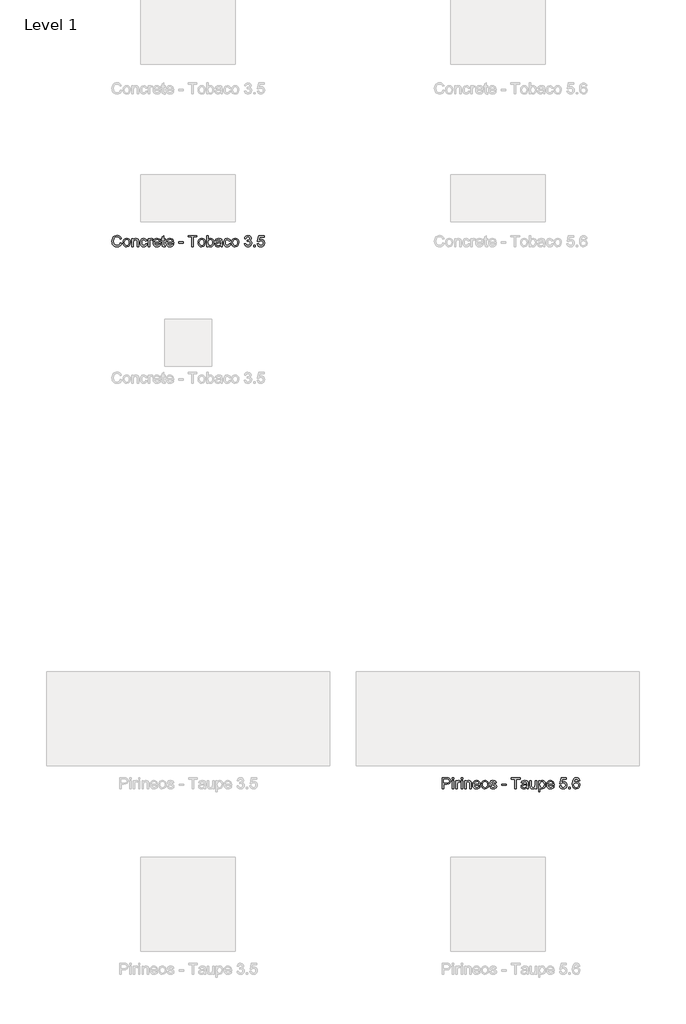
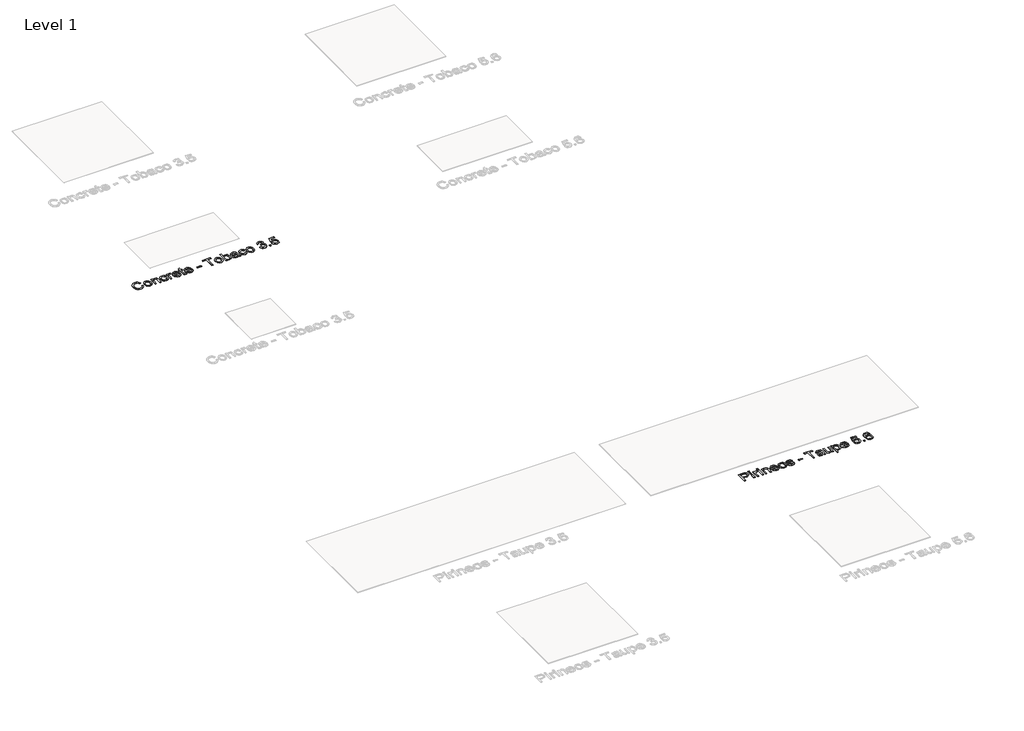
# One storey, part 49 of 80: 2 proxies.
"""IFC4 building model written with IfcOpenShell, lengths in millimetres."""

from ifc_helpers import new_model, si_unit, origin, origin_with_axes, place, context, project, spatial, polyline, outline, extrude, element, save

model = new_model("IFC4")

# Units and contexts
model_context = context("Model", 3, world=origin())
ifc_project = project(units=[si_unit("LENGTHUNIT", "METRE", prefix="MILLI")], contexts=[model_context])

# Site, building, storey
site = spatial("IfcSite", under=ifc_project)
building = spatial("IfcBuilding", under=site)
storey = spatial("IfcBuildingStorey", under=building, Name="Level 1", Elevation=0.0)

# Proxies
placement = place(None, origin())
element("IfcBuildingElementProxy", 1, Name="24\" Arial", ObjectType="24\" Arial", at=placement, inside=storey, context=model_context, shape_type="SweptSolid", body=[
    extrude(outline(polyline([(-7713.5376464, 1348.728562), (-7713.5376464, 1466.8824082), (-7669.7491848, 1466.8824082), (-7652.0953387, 1465.7574082), (-7637.7443771, 1460.2333697), (-7628.4414925, 1448.8102928), (-7624.9222617, 1432.6997159), (-7627.2984637, 1418.7742351), (-7634.4270694, 1407.1708697), (-7647.7575983, 1399.339139), (-7668.7395694, 1396.728562), (-7698.7684156, 1396.728562), (-7698.7684156, 1348.728562), (-7713.5376464, 1348.728562)]), holes=[polyline([(-7698.7684156, 1411.4977928), (-7667.8741848, 1411.4977928), (-7654.778031, 1412.853562), (-7646.1241848, 1416.9208697), (-7641.2996656, 1423.447312), (-7639.6914925, 1432.1804851), (-7643.4847617, 1444.4112544), (-7653.4511079, 1451.103562), (-7668.2203387, 1452.1131774), (-7698.7684156, 1452.1131774), (-7698.7684156, 1411.4977928)])]), origin_with_axes(), (0.0, 0.0, 1.0), 2.0),
    extrude(outline(polyline([(-7606.4607233, 1348.728562), (-7606.4607233, 1435.4977928), (-7591.6914925, 1435.4977928), (-7591.6914925, 1348.728562), (-7606.4607233, 1348.728562)])), origin_with_axes(), (0.0, 0.0, 1.0), 2.0),
    extrude(outline(polyline([(-7606.4607233, 1452.1131774), (-7606.4607233, 1466.8824082), (-7591.6914925, 1466.8824082), (-7591.6914925, 1452.1131774), (-7606.4607233, 1452.1131774)])), origin_with_axes(), (0.0, 0.0, 1.0), 2.0),
    extrude(outline(polyline([(-7569.5376464, 1348.728562), (-7569.5376464, 1435.4977928), (-7556.6145694, 1435.4977928), (-7556.6145694, 1422.6612544), (-7547.4414925, 1434.4881774), (-7538.2107233, 1437.3439467), (-7523.3838002, 1432.7862544), (-7528.3164925, 1419.5458697), (-7538.7011079, 1422.5747159), (-7547.0520694, 1419.6612544), (-7552.3741848, 1411.5843313), (-7554.7684156, 1394.3343313), (-7554.7684156, 1348.728562), (-7569.5376464, 1348.728562)])), origin_with_axes(), (0.0, 0.0, 1.0), 2.0),
    extrude(outline(polyline([(-7514.153031, 1348.728562), (-7514.153031, 1435.4977928), (-7499.3838002, 1435.4977928), (-7499.3838002, 1348.728562), (-7514.153031, 1348.728562)])), origin_with_axes(), (0.0, 0.0, 1.0), 2.0),
    extrude(outline(polyline([(-7514.153031, 1452.1131774), (-7514.153031, 1466.8824082), (-7499.3838002, 1466.8824082), (-7499.3838002, 1452.1131774), (-7514.153031, 1452.1131774)])), origin_with_axes(), (0.0, 0.0, 1.0), 2.0),
    extrude(outline(polyline([(-7477.2299541, 1348.728562), (-7477.2299541, 1435.4977928), (-7462.4607233, 1435.4977928), (-7462.4607233, 1423.3824082), (-7451.1674541, 1433.853562), (-7435.7491848, 1437.3439467), (-7421.8020694, 1434.5314467), (-7412.2828387, 1427.1468313), (-7407.8549541, 1416.2862544), (-7407.0761079, 1402.0074082), (-7407.0761079, 1348.728562), (-7421.8453387, 1348.728562), (-7421.8453387, 1400.0170236), (-7423.5472617, 1413.0843313), (-7429.5616848, 1419.9929851), (-7439.7011079, 1422.5747159), (-7455.7251464, 1416.776639), (-7460.7768291, 1408.3751967), (-7462.4607233, 1394.7670236), (-7462.4607233, 1348.728562), (-7477.2299541, 1348.728562)])), origin_with_axes(), (0.0, 0.0, 1.0), 2.0),
    extrude(outline(polyline([(-7326.0184156, 1374.5747159), (-7311.5376464, 1372.728562), (-7316.7551944, 1361.8175044), (-7325.0809156, 1353.6612544), (-7336.3273098, 1348.5771197), (-7350.3068771, 1346.8824082), (-7367.6362041, 1349.806687), (-7380.9703387, 1358.5795236), (-7389.4727425, 1372.6312063), (-7392.3068771, 1391.3920236), (-7389.4438964, 1410.7838505), (-7380.8549541, 1425.2862544), (-7367.7011079, 1434.3295236), (-7351.1434156, 1437.3439467), (-7335.1013483, 1434.3367351), (-7322.2828387, 1425.3151005), (-7313.8777906, 1410.8415428), (-7311.0761079, 1391.478562), (-7311.1626464, 1387.4977928), (-7377.5376464, 1387.4977928), (-7374.981156, 1376.4425044), (-7369.0424541, 1368.3151005), (-7360.4715406, 1363.3175044), (-7350.0184156, 1361.651639), (-7335.5376464, 1364.7381774), (-7326.0184156, 1374.5747159)]), holes=[polyline([(-7377.5376464, 1402.2670236), (-7325.8453387, 1402.2670236), (-7331.7588002, 1415.651639), (-7340.3693771, 1420.8439467), (-7351.2011079, 1422.5747159), (-7369.3886079, 1417.0506774), (-7375.1109637, 1410.5927447), (-7377.5376464, 1402.2670236)])]), origin_with_axes(), (0.0, 0.0, 1.0), 2.0),
    extrude(outline(polyline([(-7299.9991848, 1392.1131774), (-7296.8044733, 1413.0338505), (-7287.2203387, 1427.7381774), (-7275.3789925, 1434.9425044), (-7261.2011079, 1437.3439467), (-7245.6854829, 1434.4196678), (-7233.2924541, 1425.6468313), (-7225.168656, 1411.7177447), (-7222.4607233, 1393.3247159), (-7227.2491848, 1367.0458697), (-7241.1963002, 1352.1756774), (-7261.2011079, 1346.8824082), (-7276.9042329, 1349.7958697), (-7289.2828387, 1358.5362544), (-7297.3200983, 1372.7574082), (-7299.9991848, 1392.1131774)]), holes=[polyline([(-7285.2299541, 1392.1420236), (-7283.5208194, 1378.775437), (-7278.3934156, 1369.2526005), (-7270.6770694, 1363.5518794), (-7261.2011079, 1361.651639), (-7251.7684156, 1363.5626967), (-7244.0664925, 1369.2958697), (-7238.9390887, 1378.9449082), (-7237.2299541, 1392.603562), (-7238.949906, 1405.5807255), (-7244.1097617, 1414.9737544), (-7251.8225021, 1420.6744755), (-7261.2011079, 1422.5747159), (-7270.6770694, 1420.681687), (-7278.3934156, 1415.0026005), (-7283.5208194, 1405.5013986), (-7285.2299541, 1392.1420236)])]), origin_with_axes(), (0.0, 0.0, 1.0), 2.0),
    extrude(outline(polyline([(-7211.3838002, 1374.5747159), (-7196.6145694, 1376.4208697), (-7189.778031, 1365.4593313), (-7174.1145694, 1361.651639), (-7159.0568771, 1365.1420236), (-7154.153031, 1373.3343313), (-7159.0857233, 1379.9689467), (-7174.2876464, 1384.1804851), (-7196.528031, 1391.4064467), (-7206.2347617, 1399.8439467), (-7209.5376464, 1411.7574082), (-7206.8838002, 1422.7622159), (-7199.6434156, 1431.1708697), (-7190.2539925, 1435.541062), (-7177.5472617, 1437.3439467), (-7159.5761079, 1434.4449082), (-7148.153031, 1426.5987544), (-7143.0761079, 1413.3439467), (-7157.8453387, 1411.4977928), (-7163.3982233, 1419.6468313), (-7176.3934156, 1422.5747159), (-7190.528031, 1419.776639), (-7194.7684156, 1413.2574082), (-7193.0088002, 1408.9593313), (-7187.4991848, 1405.6997159), (-7174.778031, 1402.5554851), (-7153.1001464, 1395.603562), (-7143.0328387, 1387.728562), (-7139.3838002, 1374.8920236), (-7143.6674541, 1360.7574082), (-7156.028031, 1350.5026005), (-7174.3164925, 1346.8824082), (-7189.2083194, 1348.6276005), (-7200.0761079, 1353.8631774), (-7207.3309156, 1362.5314467), (-7211.3838002, 1374.5747159)])), origin_with_axes(), (0.0, 0.0, 1.0), 2.0),
    extrude(outline(polyline([(-7083.9991848, 1383.8054851), (-7083.9991848, 1398.5747159), (-7037.8453387, 1398.5747159), (-7037.8453387, 1383.8054851), (-7083.9991848, 1383.8054851)])), origin_with_axes(), (0.0, 0.0, 1.0), 2.0),
    extrude(outline(polyline([(-6943.6914925, 1348.728562), (-6943.6914925, 1452.1131774), (-6982.4607233, 1452.1131774), (-6982.4607233, 1466.8824082), (-6890.153031, 1466.8824082), (-6890.153031, 1452.1131774), (-6928.9222617, 1452.1131774), (-6928.9222617, 1348.728562), (-6943.6914925, 1348.728562)])), origin_with_axes(), (0.0, 0.0, 1.0), 2.0),
    extrude(outline(polyline([(-6819.9991848, 1359.8054851), (-6834.3213002, 1349.7958697), (-6850.1434156, 1346.8824082), (-6862.4859637, 1348.634812), (-6871.590531, 1353.8920236), (-6877.2047137, 1361.8751967), (-6879.0761079, 1371.8054851), (-6876.2491848, 1383.4881774), (-6868.8213002, 1391.9689467), (-6858.4799541, 1396.8151005), (-6845.7011079, 1399.0362544), (-6820.0857233, 1404.1131774), (-6819.9991848, 1407.401639), (-6824.0664925, 1418.3054851), (-6840.3934156, 1422.5747159), (-6855.3357233, 1419.7333697), (-6862.4607233, 1409.651639), (-6877.2299541, 1411.4977928), (-6870.840531, 1425.9208697), (-6857.9751464, 1434.3727928), (-6838.4895694, 1437.3439467), (-6820.590531, 1434.7189467), (-6810.4799541, 1428.1276005), (-6805.9511079, 1418.103562), (-6805.2299541, 1405.1804851), (-6805.2299541, 1386.8054851), (-6804.4799541, 1361.1468313), (-6801.5376464, 1348.728562), (-6816.3068771, 1348.728562), (-6819.9991848, 1359.8054851)]), holes=[polyline([(-6819.9991848, 1389.3439467), (-6843.8261079, 1384.8151005), (-6856.5328387, 1382.4208697), (-6862.2876464, 1378.526639), (-6864.3068771, 1372.8439467), (-6859.9078387, 1364.853562), (-6846.9991848, 1361.651639), (-6832.0568771, 1365.1852928), (-6822.4222617, 1373.7381774), (-6820.0857233, 1385.1612544), (-6819.9991848, 1389.3439467)])]), origin_with_axes(), (0.0, 0.0, 1.0), 2.0),
    extrude(outline(polyline([(-6729.5376464, 1348.728562), (-6729.5376464, 1363.6420236), (-6741.1049541, 1351.072312), (-6756.1914925, 1346.8824082), (-6770.0809156, 1349.8247159), (-6779.6578387, 1357.2093313), (-6784.0568771, 1368.0843313), (-6784.9222617, 1381.8151005), (-6784.9222617, 1435.4977928), (-6770.153031, 1435.4977928), (-6770.153031, 1388.7670236), (-6769.2588002, 1373.7093313), (-6763.4174541, 1364.8679851), (-6752.4126464, 1361.651639), (-6740.0809156, 1364.9401005), (-6731.9318771, 1373.8968313), (-6729.5376464, 1390.353562), (-6729.5376464, 1435.4977928), (-6714.7684156, 1435.4977928), (-6714.7684156, 1348.728562), (-6729.5376464, 1348.728562)])), origin_with_axes(), (0.0, 0.0, 1.0), 2.0),
    extrude(outline(polyline([(-6694.4607233, 1315.4977928), (-6694.4607233, 1435.4977928), (-6679.6914925, 1435.4977928), (-6679.6914925, 1421.0170236), (-6669.4799541, 1433.2622159), (-6655.6914925, 1437.3439467), (-6636.9703387, 1431.6324082), (-6624.7395694, 1415.5362544), (-6620.6145694, 1392.776639), (-6625.2732233, 1368.8487544), (-6630.9847617, 1359.4593313), (-6638.8020694, 1352.5506774), (-6657.4799541, 1346.8824082), (-6670.3309156, 1350.6756774), (-6679.6914925, 1360.2670236), (-6679.6914925, 1315.4977928), (-6694.4607233, 1315.4977928)]), holes=[polyline([(-6679.6914925, 1391.4208697), (-6678.0941367, 1378.1804851), (-6673.3020694, 1368.9208697), (-6666.231156, 1363.4689467), (-6657.7972617, 1361.651639), (-6649.2263483, 1363.5338505), (-6641.9751464, 1369.1804851), (-6637.0316367, 1378.7790428), (-6635.3838002, 1392.5170236), (-6636.9919733, 1405.6852928), (-6641.8164925, 1415.0747159), (-6648.8765887, 1420.6997159), (-6657.1914925, 1422.5747159), (-6665.5388483, 1420.5807255), (-6672.8693771, 1414.5987544), (-6677.9859637, 1404.8163024), (-6679.6914925, 1391.4208697)])]), origin_with_axes(), (0.0, 0.0, 1.0), 2.0),
    extrude(outline(polyline([(-6543.2491848, 1374.5747159), (-6528.7684156, 1372.728562), (-6533.9859637, 1361.8175044), (-6542.3116848, 1353.6612544), (-6553.5580791, 1348.5771197), (-6567.5376464, 1346.8824082), (-6584.8669733, 1349.806687), (-6598.2011079, 1358.5795236), (-6606.7035117, 1372.6312063), (-6609.5376464, 1391.3920236), (-6606.6746656, 1410.7838505), (-6598.0857233, 1425.2862544), (-6584.9318771, 1434.3295236), (-6568.3741848, 1437.3439467), (-6552.3321175, 1434.3367351), (-6539.5136079, 1425.3151005), (-6531.1085598, 1410.8415428), (-6528.3068771, 1391.478562), (-6528.3934156, 1387.4977928), (-6594.7684156, 1387.4977928), (-6592.2119252, 1376.4425044), (-6586.2732233, 1368.3151005), (-6577.7023098, 1363.3175044), (-6567.2491848, 1361.651639), (-6552.7684156, 1364.7381774), (-6543.2491848, 1374.5747159)]), holes=[polyline([(-6594.7684156, 1402.2670236), (-6543.0761079, 1402.2670236), (-6548.9895694, 1415.651639), (-6557.6001464, 1420.8439467), (-6568.4318771, 1422.5747159), (-6586.6193771, 1417.0506774), (-6592.3417329, 1410.5927447), (-6594.7684156, 1402.2670236)])]), origin_with_axes(), (0.0, 0.0, 1.0), 2.0),
    extrude(outline(polyline([(-6471.0761079, 1380.1131774), (-6456.3068771, 1381.9593313), (-6448.8645694, 1366.7429851), (-6433.4318771, 1361.651639), (-6422.8453387, 1363.4220717), (-6414.9126464, 1368.7333697), (-6409.9583194, 1376.9725524), (-6408.3068771, 1387.526639), (-6409.8537521, 1397.464139), (-6414.4943771, 1405.0651005), (-6422.2648098, 1409.8896197), (-6433.2011079, 1411.4977928), (-6446.1674541, 1408.9304851), (-6454.4607233, 1402.2670236), (-6469.2299541, 1404.1131774), (-6456.3068771, 1465.0362544), (-6399.0761079, 1465.0362544), (-6399.0761079, 1450.2670236), (-6444.3645694, 1450.2670236), (-6450.6818771, 1417.728562), (-6440.1313964, 1424.1324082), (-6429.0761079, 1426.2670236), (-6415.2768291, 1423.620389), (-6403.8213002, 1415.6804851), (-6396.1085598, 1403.5795236), (-6393.5376464, 1388.4497159), (-6395.8525502, 1373.6804851), (-6402.7972617, 1361.0458697), (-6416.0953387, 1350.4232736), (-6433.4895694, 1346.8824082), (-6447.9955791, 1349.1576486), (-6459.5520694, 1355.9833697), (-6467.4739444, 1366.5663024), (-6471.0761079, 1380.1131774)])), origin_with_axes(), (0.0, 0.0, 1.0), 2.0),
    extrude(outline(polyline([(-6373.2299541, 1348.728562), (-6373.2299541, 1363.4977928), (-6358.4607233, 1363.4977928), (-6358.4607233, 1348.728562), (-6373.2299541, 1348.728562)])), origin_with_axes(), (0.0, 0.0, 1.0), 2.0),
    extrude(outline(polyline([(-6258.7684156, 1435.4977928), (-6273.5376464, 1433.651639), (-6279.1338002, 1445.9689467), (-6285.8333194, 1450.5771197), (-6293.9318771, 1452.1131774), (-6307.2588002, 1448.5362544), (-6317.340531, 1435.1083697), (-6321.5376464, 1408.7862544), (-6308.5136079, 1420.5699082), (-6292.3741848, 1424.4208697), (-6278.7299541, 1421.7886582), (-6267.278031, 1413.8920236), (-6259.5112041, 1401.8271197), (-6256.9222617, 1386.6901005), (-6261.7972617, 1366.3102928), (-6275.2107233, 1351.8872159), (-6294.5664925, 1346.8824082), (-6311.3225021, 1350.1997159), (-6324.6674541, 1360.151639), (-6333.3970214, 1377.7189467), (-6336.3068771, 1403.8824082), (-6333.0761079, 1433.2982736), (-6323.3838002, 1453.4112544), (-6310.1506271, 1463.5146197), (-6293.0088002, 1466.8824082), (-6280.0496656, 1464.7982736), (-6269.6722617, 1458.5458697), (-6262.403031, 1448.6155813), (-6258.7684156, 1435.4977928)]), holes=[polyline([(-6321.5376464, 1386.9208697), (-6318.1193771, 1374.1276005), (-6309.0328387, 1364.839139), (-6295.7203387, 1361.651639), (-6285.9739444, 1363.3030813), (-6278.3116848, 1368.2574082), (-6273.3465406, 1376.0458697), (-6271.6914925, 1386.1997159), (-6273.324906, 1395.9461101), (-6278.2251464, 1403.3776005), (-6286.0172137, 1408.0831294), (-6296.3261079, 1409.651639), (-6306.0580791, 1408.0831294), (-6314.1963002, 1403.3776005), (-6319.7023098, 1396.1263986), (-6321.5376464, 1386.9208697)])]), origin_with_axes(), (0.0, 0.0, 1.0), 2.0),
])
element("IfcBuildingElementProxy", 2, Name="24\" Arial", ObjectType="24\" Arial", at=placement, inside=storey, context=model_context, shape_type="SweptSolid", body=[
    extrude(outline(polyline([(-11124.6145694, 7132.3794502), (-11109.8453387, 7128.5717579), (-11116.6602425, 7111.3614213), (-11127.3549541, 7098.788104), (-11141.403031, 7091.0969982), (-11158.278031, 7088.5332963), (-11175.4090406, 7090.4732002), (-11189.0136079, 7096.2929117), (-11199.4414925, 7105.7905079), (-11207.0424541, 7118.7640655), (-11211.6830791, 7134.0164694), (-11213.2299541, 7150.350604), (-11211.481156, 7167.5789694), (-11206.2347617, 7182.4563732), (-11197.7648098, 7194.5104598), (-11186.3453387, 7203.2688732), (-11172.8020694, 7208.6018059), (-11157.9607233, 7210.3794502), (-11141.7672137, 7208.0789694), (-11128.3789925, 7201.1775271), (-11118.2143291, 7190.100604), (-11111.6914925, 7175.2736809), (-11126.4607233, 7171.7544502), (-11131.5809156, 7182.5248829), (-11138.5761079, 7189.913104), (-11147.5328387, 7194.1859405), (-11158.5376464, 7195.6102194), (-11171.2227425, 7194.0308925), (-11181.6434156, 7189.2929117), (-11189.5508675, 7181.8938732), (-11194.6963002, 7172.3313732), (-11198.4607233, 7150.3794502), (-11194.0039925, 7124.9371425), (-11188.3068771, 7115.4359405), (-11180.1289925, 7108.6823348), (-11159.7491848, 7103.3025271), (-11147.4210598, 7105.1342579), (-11137.1482233, 7110.6294502), (-11129.3922137, 7119.7304117), (-11124.6145694, 7132.3794502)])), origin_with_axes(), (0.0, 0.0, 1.0), 2.0),
    extrude(outline(polyline([(-11095.0761079, 7133.7640655), (-11091.8813964, 7154.6847386), (-11082.2972617, 7169.3890655), (-11070.4559156, 7176.5933925), (-11056.278031, 7178.9948348), (-11040.762406, 7176.0705559), (-11028.3693771, 7167.2977194), (-11020.2455791, 7153.3686329), (-11017.5376464, 7134.975604), (-11022.3261079, 7108.6967579), (-11036.2732233, 7093.8265655), (-11056.278031, 7088.5332963), (-11071.981156, 7091.4467579), (-11084.3597617, 7100.1871425), (-11092.3970214, 7114.4082963), (-11095.0761079, 7133.7640655)]), holes=[polyline([(-11080.3068771, 7133.7929117), (-11078.5977425, 7120.4263252), (-11073.4703387, 7110.9034886), (-11065.7539925, 7105.2027675), (-11056.278031, 7103.3025271), (-11046.8453387, 7105.2135848), (-11039.1434156, 7110.9467579), (-11034.0160117, 7120.5957963), (-11032.3068771, 7134.2544502), (-11034.0268291, 7147.2316136), (-11039.1866848, 7156.6246425), (-11046.8994252, 7162.3253636), (-11056.278031, 7164.225604), (-11065.7539925, 7162.3325752), (-11073.4703387, 7156.6534886), (-11078.5977425, 7147.1522867), (-11080.3068771, 7133.7929117)])]), origin_with_axes(), (0.0, 0.0, 1.0), 2.0),
    extrude(outline(polyline([(-11000.9222617, 7090.3794502), (-11000.9222617, 7177.1486809), (-10986.153031, 7177.1486809), (-10986.153031, 7165.0332963), (-10974.8597617, 7175.5044502), (-10959.4414925, 7178.9948348), (-10945.4943771, 7176.1823348), (-10935.9751464, 7168.7977194), (-10931.5472617, 7157.9371425), (-10930.7684156, 7143.6582963), (-10930.7684156, 7090.3794502), (-10945.5376464, 7090.3794502), (-10945.5376464, 7141.6679117), (-10947.2395694, 7154.7352194), (-10953.2539925, 7161.6438732), (-10963.3934156, 7164.225604), (-10979.4174541, 7158.4275271), (-10984.4691367, 7150.0260848), (-10986.153031, 7136.4179117), (-10986.153031, 7090.3794502), (-11000.9222617, 7090.3794502)])), origin_with_axes(), (0.0, 0.0, 1.0), 2.0),
    extrude(outline(polyline([(-10855.0761079, 7121.7640655), (-10840.3068771, 7119.9179117), (-10844.4246656, 7106.7820944), (-10852.1626464, 7096.8554117), (-10862.7924541, 7090.6138252), (-10875.5857233, 7088.5332963), (-10891.2960598, 7091.4359405), (-10903.5809156, 7100.1438732), (-10911.5100021, 7114.2748829), (-10914.153031, 7133.4467579), (-10909.6386079, 7157.9804117), (-10903.9414925, 7167.178729), (-10895.8789925, 7173.7448348), (-10875.7876464, 7178.9948348), (-10863.3080791, 7177.1919502), (-10853.3309156, 7171.7832963), (-10846.1734637, 7163.0573348), (-10842.153031, 7151.3025271), (-10856.9222617, 7149.4563732), (-10863.7732233, 7160.5188732), (-10875.6722617, 7164.225604), (-10885.2167329, 7162.4010848), (-10892.7924541, 7156.9275271), (-10897.7359637, 7147.5092579), (-10899.3838002, 7133.850604), (-10897.7720214, 7120.0080559), (-10892.9366848, 7110.5573348), (-10885.4979829, 7105.116229), (-10876.0761079, 7103.3025271), (-10862.1578387, 7107.8313732), (-10855.0761079, 7121.7640655)])), origin_with_axes(), (0.0, 0.0, 1.0), 2.0),
    extrude(outline(polyline([(-10827.3838002, 7090.3794502), (-10827.3838002, 7177.1486809), (-10814.4607233, 7177.1486809), (-10814.4607233, 7164.3121425), (-10805.2876464, 7176.1390655), (-10796.0568771, 7178.9948348), (-10781.2299541, 7174.4371425), (-10786.1626464, 7161.1967579), (-10796.5472617, 7164.225604), (-10804.8982233, 7161.3121425), (-10810.2203387, 7153.2352194), (-10812.6145694, 7135.9852194), (-10812.6145694, 7090.3794502), (-10827.3838002, 7090.3794502)])), origin_with_axes(), (0.0, 0.0, 1.0), 2.0),
    extrude(outline(polyline([(-10711.2491848, 7116.225604), (-10696.7684156, 7114.3794502), (-10701.9859637, 7103.4683925), (-10710.3116848, 7095.3121425), (-10721.5580791, 7090.2280079), (-10735.5376464, 7088.5332963), (-10752.8669733, 7091.4575752), (-10766.2011079, 7100.2304117), (-10774.7035117, 7114.2820944), (-10777.5376464, 7133.0429117), (-10774.6746656, 7152.4347386), (-10766.0857233, 7166.9371425), (-10752.9318771, 7175.9804117), (-10736.3741848, 7178.9948348), (-10720.3321175, 7175.9876232), (-10707.5136079, 7166.9659886), (-10699.1085598, 7152.4924309), (-10696.3068771, 7133.1294502), (-10696.3934156, 7129.1486809), (-10762.7684156, 7129.1486809), (-10760.2119252, 7118.0933925), (-10754.2732233, 7109.9659886), (-10745.7023098, 7104.9683925), (-10735.2491848, 7103.3025271), (-10720.7684156, 7106.3890655), (-10711.2491848, 7116.225604)]), holes=[polyline([(-10762.7684156, 7143.9179117), (-10711.0761079, 7143.9179117), (-10716.9895694, 7157.3025271), (-10725.6001464, 7162.4948348), (-10736.4318771, 7164.225604), (-10754.6193771, 7158.7015655), (-10760.3417329, 7152.2436329), (-10762.7684156, 7143.9179117)])]), origin_with_axes(), (0.0, 0.0, 1.0), 2.0),
    extrude(outline(polyline([(-10650.153031, 7102.6967579), (-10648.3068771, 7089.9467579), (-10659.3549541, 7088.5332963), (-10671.7299541, 7090.9852194), (-10677.903031, 7097.4179117), (-10679.6914925, 7114.1775271), (-10679.6914925, 7162.3794502), (-10690.7684156, 7162.3794502), (-10690.7684156, 7177.1486809), (-10679.6914925, 7177.1486809), (-10679.6914925, 7198.2352194), (-10664.9222617, 7206.9179117), (-10664.9222617, 7177.1486809), (-10650.153031, 7177.1486809), (-10650.153031, 7162.3794502), (-10664.9222617, 7162.3794502), (-10664.9222617, 7114.6102194), (-10664.1434156, 7106.9948348), (-10661.6193771, 7104.2977194), (-10656.5857233, 7103.3025271), (-10650.153031, 7102.6967579)])), origin_with_axes(), (0.0, 0.0, 1.0), 2.0),
    extrude(outline(polyline([(-10574.6338002, 7116.225604), (-10560.153031, 7114.3794502), (-10565.3705791, 7103.4683925), (-10573.6963002, 7095.3121425), (-10584.9426944, 7090.2280079), (-10598.9222617, 7088.5332963), (-10616.2515887, 7091.4575752), (-10629.5857233, 7100.2304117), (-10638.0881271, 7114.2820944), (-10640.9222617, 7133.0429117), (-10638.059281, 7152.4347386), (-10629.4703387, 7166.9371425), (-10616.3164925, 7175.9804117), (-10599.7588002, 7178.9948348), (-10583.7167329, 7175.9876232), (-10570.8982233, 7166.9659886), (-10562.4931752, 7152.4924309), (-10559.6914925, 7133.1294502), (-10559.778031, 7129.1486809), (-10626.153031, 7129.1486809), (-10623.5965406, 7118.0933925), (-10617.6578387, 7109.9659886), (-10609.0869252, 7104.9683925), (-10598.6338002, 7103.3025271), (-10584.153031, 7106.3890655), (-10574.6338002, 7116.225604)]), holes=[polyline([(-10626.153031, 7143.9179117), (-10574.4607233, 7143.9179117), (-10580.3741848, 7157.3025271), (-10588.9847617, 7162.4948348), (-10599.8164925, 7164.225604), (-10618.0039925, 7158.7015655), (-10623.7263483, 7152.2436329), (-10626.153031, 7143.9179117)])]), origin_with_axes(), (0.0, 0.0, 1.0), 2.0),
    extrude(outline(polyline([(-10506.153031, 7125.4563732), (-10506.153031, 7140.225604), (-10459.9991848, 7140.225604), (-10459.9991848, 7125.4563732), (-10506.153031, 7125.4563732)])), origin_with_axes(), (0.0, 0.0, 1.0), 2.0),
    extrude(outline(polyline([(-10365.8453387, 7090.3794502), (-10365.8453387, 7193.7640655), (-10404.6145694, 7193.7640655), (-10404.6145694, 7208.5332963), (-10312.3068771, 7208.5332963), (-10312.3068771, 7193.7640655), (-10351.0761079, 7193.7640655), (-10351.0761079, 7090.3794502), (-10365.8453387, 7090.3794502)])), origin_with_axes(), (0.0, 0.0, 1.0), 2.0),
    extrude(outline(polyline([(-10301.2299541, 7133.7640655), (-10298.0352425, 7154.6847386), (-10288.4511079, 7169.3890655), (-10276.6097617, 7176.5933925), (-10262.4318771, 7178.9948348), (-10246.9162521, 7176.0705559), (-10234.5232233, 7167.2977194), (-10226.3994252, 7153.3686329), (-10223.6914925, 7134.975604), (-10228.4799541, 7108.6967579), (-10242.4270694, 7093.8265655), (-10262.4318771, 7088.5332963), (-10278.1350021, 7091.4467579), (-10290.5136079, 7100.1871425), (-10298.5508675, 7114.4082963), (-10301.2299541, 7133.7640655)]), holes=[polyline([(-10286.4607233, 7133.7929117), (-10284.7515887, 7120.4263252), (-10279.6241848, 7110.9034886), (-10271.9078387, 7105.2027675), (-10262.4318771, 7103.3025271), (-10252.9991848, 7105.2135848), (-10245.2972617, 7110.9467579), (-10240.1698579, 7120.5957963), (-10238.4607233, 7134.2544502), (-10240.1806752, 7147.2316136), (-10245.340531, 7156.6246425), (-10253.0532714, 7162.3253636), (-10262.4318771, 7164.225604), (-10271.9078387, 7162.3325752), (-10279.6241848, 7156.6534886), (-10284.7515887, 7147.1522867), (-10286.4607233, 7133.7929117)])]), origin_with_axes(), (0.0, 0.0, 1.0), 2.0),
    extrude(outline(polyline([(-10192.3068771, 7090.3794502), (-10207.0761079, 7090.3794502), (-10207.0761079, 7208.5332963), (-10192.3068771, 7208.5332963), (-10192.3068771, 7164.7159886), (-10181.965531, 7175.4251232), (-10169.1145694, 7178.9948348), (-10154.3164925, 7175.7784886), (-10142.8357233, 7166.7352194), (-10135.7828387, 7152.6727194), (-10133.2299541, 7135.0621425), (-10135.8729829, 7115.3457963), (-10143.8020694, 7100.6775271), (-10155.4378867, 7091.569354), (-10169.2011079, 7088.5332963), (-10182.3333194, 7092.4491617), (-10192.3068771, 7104.1967579), (-10192.3068771, 7090.3794502)]), holes=[polyline([(-10192.3068771, 7134.3698348), (-10188.2684156, 7113.7159886), (-10180.5304348, 7105.9058925), (-10170.4703387, 7103.3025271), (-10161.9463002, 7105.2207963), (-10154.6626464, 7110.975604), (-10149.6650502, 7120.5308925), (-10147.9991848, 7133.850604), (-10149.5965406, 7147.3650271), (-10154.3886079, 7156.8121425), (-10161.4450983, 7162.3722386), (-10169.8357233, 7164.225604), (-10178.3597617, 7162.3073348), (-10185.6434156, 7156.5525271), (-10190.6410117, 7147.1703155), (-10192.3068771, 7134.3698348)])]), origin_with_axes(), (0.0, 0.0, 1.0), 2.0),
    extrude(outline(polyline([(-10061.2299541, 7101.4563732), (-10075.5520694, 7091.4467579), (-10091.3741848, 7088.5332963), (-10103.7167329, 7090.2857002), (-10112.8213002, 7095.5429117), (-10118.4354829, 7103.5260848), (-10120.3068771, 7113.4563732), (-10117.4799541, 7125.1390655), (-10110.0520694, 7133.6198348), (-10099.7107233, 7138.4659886), (-10086.9318771, 7140.6871425), (-10061.3164925, 7145.7640655), (-10061.2299541, 7149.0525271), (-10065.2972617, 7159.9563732), (-10081.6241848, 7164.225604), (-10096.5664925, 7161.3842579), (-10103.6914925, 7151.3025271), (-10118.4607233, 7153.1486809), (-10112.0713002, 7167.5717579), (-10099.2059156, 7176.0236809), (-10079.7203387, 7178.9948348), (-10061.8213002, 7176.3698348), (-10051.7107233, 7169.7784886), (-10047.1818771, 7159.7544502), (-10046.4607233, 7146.8313732), (-10046.4607233, 7128.4563732), (-10045.7107233, 7102.7977194), (-10042.7684156, 7090.3794502), (-10057.5376464, 7090.3794502), (-10061.2299541, 7101.4563732)]), holes=[polyline([(-10061.2299541, 7130.9948348), (-10085.0568771, 7126.4659886), (-10097.7636079, 7124.0717579), (-10103.5184156, 7120.1775271), (-10105.5376464, 7114.4948348), (-10101.1386079, 7106.5044502), (-10088.2299541, 7103.3025271), (-10073.2876464, 7106.8361809), (-10063.653031, 7115.3890655), (-10061.3164925, 7126.8121425), (-10061.2299541, 7130.9948348)])]), origin_with_axes(), (0.0, 0.0, 1.0), 2.0),
    extrude(outline(polyline([(-9970.7684156, 7121.7640655), (-9955.9991848, 7119.9179117), (-9960.1169733, 7106.7820944), (-9967.8549541, 7096.8554117), (-9978.4847617, 7090.6138252), (-9991.278031, 7088.5332963), (-10006.9883675, 7091.4359405), (-10019.2732233, 7100.1438732), (-10027.2023098, 7114.2748829), (-10029.8453387, 7133.4467579), (-10025.3309156, 7157.9804117), (-10019.6338002, 7167.178729), (-10011.5713002, 7173.7448348), (-9991.4799541, 7178.9948348), (-9979.0003867, 7177.1919502), (-9969.0232233, 7171.7832963), (-9961.8657714, 7163.0573348), (-9957.8453387, 7151.3025271), (-9972.6145694, 7149.4563732), (-9979.465531, 7160.5188732), (-9991.3645694, 7164.225604), (-10000.9090406, 7162.4010848), (-10008.4847617, 7156.9275271), (-10013.4282714, 7147.5092579), (-10015.0761079, 7133.850604), (-10013.4643291, 7120.0080559), (-10008.6289925, 7110.5573348), (-10001.1902906, 7105.116229), (-9991.7684156, 7103.3025271), (-9977.8501464, 7107.8313732), (-9970.7684156, 7121.7640655)])), origin_with_axes(), (0.0, 0.0, 1.0), 2.0),
    extrude(outline(polyline([(-9946.7684156, 7133.7640655), (-9943.5737041, 7154.6847386), (-9933.9895694, 7169.3890655), (-9922.1482233, 7176.5933925), (-9907.9703387, 7178.9948348), (-9892.4547137, 7176.0705559), (-9880.0616848, 7167.2977194), (-9871.9378867, 7153.3686329), (-9869.2299541, 7134.975604), (-9874.0184156, 7108.6967579), (-9887.965531, 7093.8265655), (-9907.9703387, 7088.5332963), (-9923.6734637, 7091.4467579), (-9936.0520694, 7100.1871425), (-9944.0893291, 7114.4082963), (-9946.7684156, 7133.7640655)]), holes=[polyline([(-9931.9991848, 7133.7929117), (-9930.2900502, 7120.4263252), (-9925.1626464, 7110.9034886), (-9917.4463002, 7105.2027675), (-9907.9703387, 7103.3025271), (-9898.5376464, 7105.2135848), (-9890.8357233, 7110.9467579), (-9885.7083194, 7120.5957963), (-9883.9991848, 7134.2544502), (-9885.7191367, 7147.2316136), (-9890.8789925, 7156.6246425), (-9898.5917329, 7162.3253636), (-9907.9703387, 7164.225604), (-9917.4463002, 7162.3325752), (-9925.1626464, 7156.6534886), (-9930.2900502, 7147.1522867), (-9931.9991848, 7133.7929117)])]), origin_with_axes(), (0.0, 0.0, 1.0), 2.0),
    extrude(outline(polyline([(-9810.153031, 7121.7640655), (-9795.3838002, 7123.6102194), (-9787.2347617, 7108.0621425), (-9771.9895694, 7103.3025271), (-9761.8645694, 7104.9395463), (-9754.0472617, 7109.850604), (-9749.0496656, 7117.1775271), (-9747.3838002, 7126.0621425), (-9749.0352425, 7134.4960367), (-9753.9895694, 7141.3361809), (-9761.4895694, 7145.8686329), (-9770.778031, 7147.3794502), (-9781.1338002, 7145.7640655), (-9779.4895694, 7160.5332963), (-9777.1241848, 7160.3602194), (-9760.3645694, 7164.600604), (-9754.7828387, 7169.9804117), (-9752.9222617, 7177.6390655), (-9758.3164925, 7189.1919502), (-9772.2203387, 7193.7640655), (-9786.2972617, 7189.1486809), (-9793.5376464, 7175.3025271), (-9808.3068771, 7177.1486809), (-9803.9583194, 7190.4107002), (-9796.2203387, 7200.3121425), (-9785.6338002, 7206.4780079), (-9772.7395694, 7208.5332963), (-9754.9270694, 7204.4804117), (-9742.465531, 7193.4034886), (-9738.153031, 7178.5044502), (-9742.2491848, 7164.8890655), (-9754.3645694, 7155.1102194), (-9745.1193771, 7151.3746425), (-9738.2684156, 7145.0140655), (-9734.028031, 7136.3746425), (-9732.6145694, 7125.8025271), (-9735.4414925, 7111.4082963), (-9743.9222617, 7099.3794502), (-9756.7227425, 7091.2448348), (-9772.5088002, 7088.5332963), (-9786.7876464, 7090.8482002), (-9798.4126464, 7097.7929117), (-9806.496781, 7108.4155079), (-9810.153031, 7121.7640655)])), origin_with_axes(), (0.0, 0.0, 1.0), 2.0),
    extrude(outline(polyline([(-9712.3068771, 7090.3794502), (-9712.3068771, 7105.1486809), (-9697.5376464, 7105.1486809), (-9697.5376464, 7090.3794502), (-9712.3068771, 7090.3794502)])), origin_with_axes(), (0.0, 0.0, 1.0), 2.0),
    extrude(outline(polyline([(-9673.5376464, 7121.7640655), (-9658.7684156, 7123.6102194), (-9651.3261079, 7108.3938732), (-9635.8934156, 7103.3025271), (-9625.3068771, 7105.0729598), (-9617.3741848, 7110.3842579), (-9612.4198579, 7118.6234405), (-9610.7684156, 7129.1775271), (-9612.3152906, 7139.1150271), (-9616.9559156, 7146.7159886), (-9624.7263483, 7151.5405079), (-9635.6626464, 7153.1486809), (-9648.6289925, 7150.5813732), (-9656.9222617, 7143.9179117), (-9671.6914925, 7145.7640655), (-9658.7684156, 7206.6871425), (-9601.5376464, 7206.6871425), (-9601.5376464, 7191.9179117), (-9646.8261079, 7191.9179117), (-9653.1434156, 7159.3794502), (-9642.5929348, 7165.7832963), (-9631.5376464, 7167.9179117), (-9617.7383675, 7165.2712771), (-9606.2828387, 7157.3313732), (-9598.5700983, 7145.2304117), (-9595.9991848, 7130.100604), (-9598.3140887, 7115.3313732), (-9605.2588002, 7102.6967579), (-9618.5568771, 7092.0741617), (-9635.9511079, 7088.5332963), (-9650.4571175, 7090.8085367), (-9662.0136079, 7097.6342579), (-9669.9354829, 7108.2171905), (-9673.5376464, 7121.7640655)])), origin_with_axes(), (0.0, 0.0, 1.0), 2.0),
])

save(model, "model.ifc")
